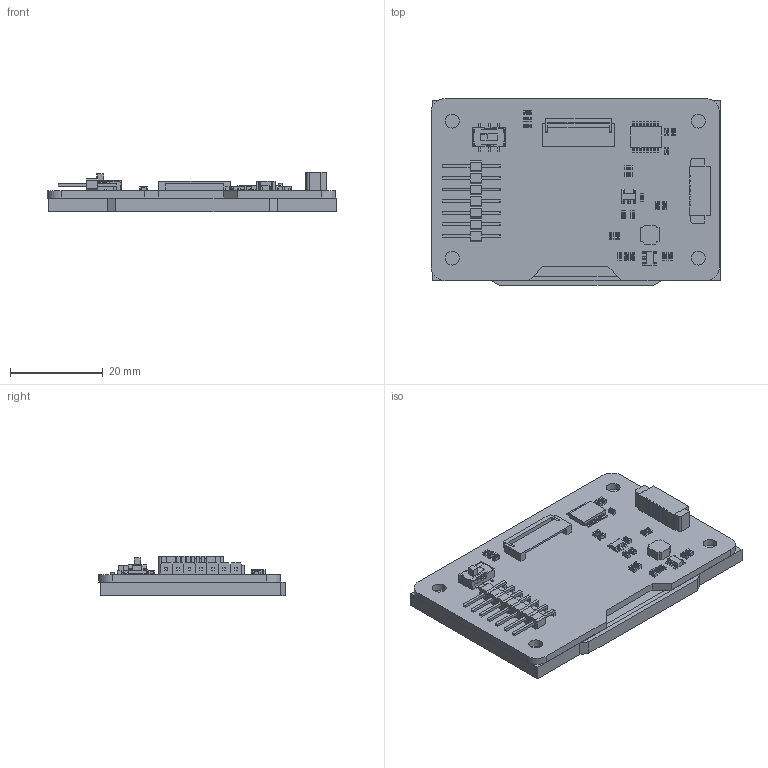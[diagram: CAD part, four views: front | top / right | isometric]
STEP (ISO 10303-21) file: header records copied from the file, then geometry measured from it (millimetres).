
FILE_DESCRIPTION(/* description */ (''),/* implementation_level */ '2;1');
FILE_NAME(/* name */ '2.42 OLED Display _B_ V1.4_1__step.prt_stp.prt.stp',/* time_stamp */ '2025-08-22T10:29:43+08:00',/* author */ (''),/* organization */ (''),/* preprocessor_version */ 'ST-DEVELOPER v16.7',/* originating_system */ 'SIEMENS PLM Software NX 12.0',/* authorisation */ '');
FILE_SCHEMA (('AUTOMOTIVE_DESIGN { 1 0 10303 214 3 1 1 1 }'));
Length unit declared in the file: millimetre
Products named in the file (38): K3-2380ke; K3-2380; C_06033909; LOGO_; User_Library-R0603-2; Apingmu; A23; Abaisjiekou; Ajiekou; AXINPIAN; Apaizhen; 100; Aban; Board; C_0603; C13; K3-2380s; S1; R5; R4; R3; R2; R1; C12; C11; C10; C9; C8; C7; C6; C5; C4; C3; C2; C1; C15; C18; 2.42 OLED Display _B_ V1.4_1__step.prt_stp
Assembly tree (57 placements, depth 4):
  2.42 OLED Display _B_ V1.4_1__step.prt_stp
    Board  x2
    C18
      C_0603
        LOGO_
        C_06033909
    C15
      C_0603
        LOGO_
        C_06033909
    C1
      C_0603
        LOGO_
        C_06033909
    C2
      C_0603
        LOGO_
        C_06033909
    C3
      C_0603
        LOGO_
        C_06033909
    C4
      C_0603
        LOGO_
        C_06033909
    C5
      C_0603
        LOGO_
        C_06033909
    C6
      C_0603
        LOGO_
        C_06033909
    C7
      C_0603
        LOGO_
        C_06033909
    C8
      C_0603
        LOGO_
        C_06033909
    C9
      C_0603
        LOGO_
        C_06033909
    C10
      C_0603
        LOGO_
        C_06033909
    C11
      C_0603
        LOGO_
        C_06033909
    C12
      C_0603
        LOGO_
        C_06033909
    R1
      User_Library-R0603-2
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Bounding box: 62.4 x 40.25 x 8.6 mm (x, y, z)
Volume: 11300.9 mm3; surface area: 12944 mm2
Topology: 348 solids, 348 shells, 4371 faces, 10277 edges, 6626 vertices
Faces by surface type: plane 2285, bspline 1331, cylinder 631, sphere 120, torus 4
Full cylindrical faces by diameter (mm): 3 x4
Entity records: 41737 total; most frequent: CARTESIAN_POINT 14651, ORIENTED_EDGE 5126, DIRECTION 4557, EDGE_CURVE 2563, LINE 2097, VECTOR 2097, VERTEX_POINT 1678, AXIS2_PLACEMENT_3D 1230
